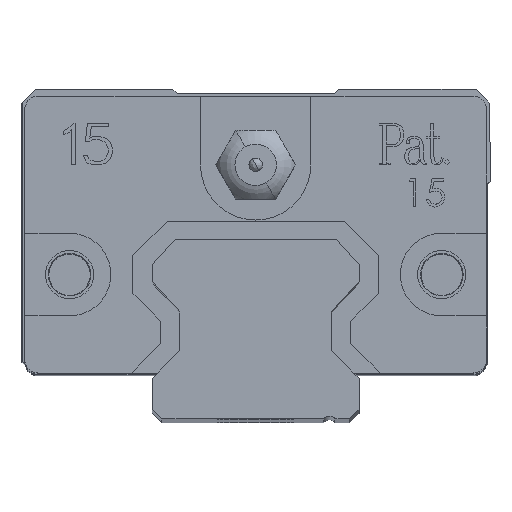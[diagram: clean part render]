
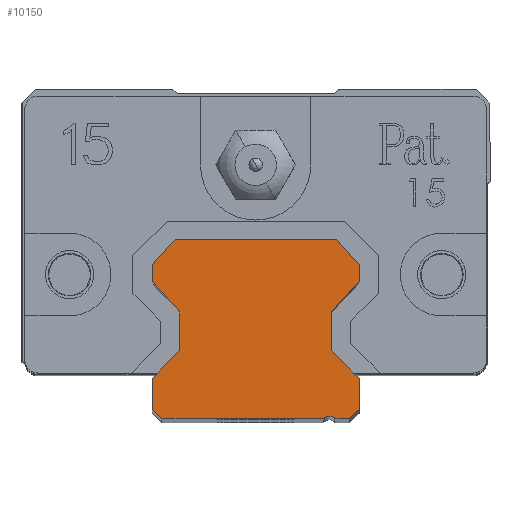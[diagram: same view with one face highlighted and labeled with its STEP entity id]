
A CAD part, top view. The second image highlights one B-rep face of the part: STEP entity #10150.
In plain terms, the highlighted planar face has unit normal (0, 0, 1).
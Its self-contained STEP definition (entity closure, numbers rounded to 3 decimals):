
#109 = DIRECTION ( 'NONE',  ( -0.67, -0.742, 0. ) ) ;
#121 = VERTEX_POINT ( 'NONE', #10497 ) ;
#242 = EDGE_CURVE ( 'NONE', #7053, #3446, #3421, .T. ) ;
#275 = DIRECTION ( 'NONE',  ( 0., -1., 0. ) ) ;
#368 = CARTESIAN_POINT ( 'NONE',  ( -5.5, -2.8, 80. ) ) ;
#427 = LINE ( 'NONE', #15049, #14549 ) ;
#525 = VECTOR ( 'NONE', #14811, 1000. ) ;
#643 = ORIENTED_EDGE ( 'NONE', *, *, #1134, .T. ) ;
#658 = ORIENTED_EDGE ( 'NONE', *, *, #7974, .T. ) ;
#1035 = VERTEX_POINT ( 'NONE', #14005 ) ;
#1068 = EDGE_CURVE ( 'NONE', #121, #13910, #1779, .T. ) ;
#1134 = EDGE_CURVE ( 'NONE', #13910, #14554, #1858, .T. ) ;
#1194 = ORIENTED_EDGE ( 'NONE', *, *, #1418, .T. ) ;
#1236 = CARTESIAN_POINT ( 'NONE',  ( 5.35, -10.85, 80. ) ) ;
#1257 = DIRECTION ( 'NONE',  ( 0., 1., 0. ) ) ;
#1418 = EDGE_CURVE ( 'NONE', #11864, #10074, #14987, .T. ) ;
#1494 = VECTOR ( 'NONE', #6719, 1000. ) ;
#1553 = ORIENTED_EDGE ( 'NONE', *, *, #5429, .T. ) ;
#1726 = EDGE_CURVE ( 'NONE', #7640, #121, #7304, .T. ) ;
#1779 = LINE ( 'NONE', #10383, #14615 ) ;
#1858 = LINE ( 'NONE', #13849, #12071 ) ;
#2053 = VERTEX_POINT ( 'NONE', #13202 ) ;
#2123 = EDGE_CURVE ( 'NONE', #3446, #3235, #2877, .T. ) ;
#2182 = ORIENTED_EDGE ( 'NONE', *, *, #13780, .T. ) ;
#2283 = CARTESIAN_POINT ( 'NONE',  ( 5.5, -5.6, 80. ) ) ;
#2499 = VERTEX_POINT ( 'NONE', #7344 ) ;
#2524 = VECTOR ( 'NONE', #14203, 1000. ) ;
#2562 = EDGE_CURVE ( 'NONE', #3235, #15721, #14769, .T. ) ;
#2877 = CIRCLE ( 'NONE', #6943, 0.5 ) ;
#2970 = ORIENTED_EDGE ( 'NONE', *, *, #242, .T. ) ;
#3102 = VECTOR ( 'NONE', #4507, 1000. ) ;
#3235 = VERTEX_POINT ( 'NONE', #14645 ) ;
#3401 = EDGE_CURVE ( 'NONE', #7544, #12817, #427, .T. ) ;
#3421 = LINE ( 'NONE', #5797, #7894 ) ;
#3446 = VERTEX_POINT ( 'NONE', #9513 ) ;
#3500 = EDGE_CURVE ( 'NONE', #15721, #2053, #4749, .T. ) ;
#3571 = EDGE_CURVE ( 'NONE', #2053, #11864, #12225, .T. ) ;
#3947 = VECTOR ( 'NONE', #11016, 1000. ) ;
#4507 = DIRECTION ( 'NONE',  ( 0.707, 0.707, 0. ) ) ;
#4594 = ORIENTED_EDGE ( 'NONE', *, *, #2562, .T. ) ;
#4749 = LINE ( 'NONE', #10701, #3102 ) ;
#4897 = EDGE_CURVE ( 'NONE', #1035, #7053, #6572, .T. ) ;
#5284 = CARTESIAN_POINT ( 'NONE',  ( 7.5, 0.621, 80. ) ) ;
#5418 = EDGE_CURVE ( 'NONE', #11360, #10384, #15782, .T. ) ;
#5429 = EDGE_CURVE ( 'NONE', #10074, #7640, #13381, .T. ) ;
#5797 = CARTESIAN_POINT ( 'NONE',  ( -6.8, -10.55, 80. ) ) ;
#5887 = VECTOR ( 'NONE', #14463, 1000. ) ;
#5912 = VERTEX_POINT ( 'NONE', #14617 ) ;
#6110 = DIRECTION ( 'NONE',  ( 0., 0., 1. ) ) ;
#6419 = DIRECTION ( 'NONE',  ( 1., 0., 0. ) ) ;
#6460 = CARTESIAN_POINT ( 'NONE',  ( 6.8, -10.55, 80. ) ) ;
#6541 = VECTOR ( 'NONE', #1257, 1000. ) ;
#6567 = DIRECTION ( 'NONE',  ( 0., 1., 0. ) ) ;
#6572 = LINE ( 'NONE', #7933, #7227 ) ;
#6719 = DIRECTION ( 'NONE',  ( -1., 0., 0. ) ) ;
#6943 = AXIS2_PLACEMENT_3D ( 'NONE', #14702, #14634, #6419 ) ;
#7053 = VERTEX_POINT ( 'NONE', #9582 ) ;
#7063 = CARTESIAN_POINT ( 'NONE',  ( 7.5, -7.6, 80. ) ) ;
#7216 = PLANE ( 'NONE',  #11421 ) ;
#7227 = VECTOR ( 'NONE', #12792, 1000. ) ;
#7304 = LINE ( 'NONE', #12179, #525 ) ;
#7344 = CARTESIAN_POINT ( 'NONE',  ( -7.5, -7.6, 80. ) ) ;
#7349 = EDGE_CURVE ( 'NONE', #10384, #7544, #13975, .T. ) ;
#7424 = CARTESIAN_POINT ( 'NONE',  ( 5.75, -10.55, 80. ) ) ;
#7544 = VERTEX_POINT ( 'NONE', #8685 ) ;
#7640 = VERTEX_POINT ( 'NONE', #14741 ) ;
#7894 = VECTOR ( 'NONE', #9545, 1000. ) ;
#7904 = VECTOR ( 'NONE', #11082, 1000. ) ;
#7933 = CARTESIAN_POINT ( 'NONE',  ( -7.5, -9.85, 80. ) ) ;
#7974 = EDGE_CURVE ( 'NONE', #12817, #5912, #12253, .T. ) ;
#7981 = CARTESIAN_POINT ( 'NONE',  ( -5.85, 2.45, 80. ) ) ;
#8448 = CARTESIAN_POINT ( 'NONE',  ( 5.5, -5.6, 80. ) ) ;
#8515 = CARTESIAN_POINT ( 'NONE',  ( -7.5, 0.621, 80. ) ) ;
#8632 = ORIENTED_EDGE ( 'NONE', *, *, #3500, .T. ) ;
#8656 = DIRECTION ( 'NONE',  ( 1., 0., 0. ) ) ;
#8685 = CARTESIAN_POINT ( 'NONE',  ( -7.5, -0.621, 80. ) ) ;
#8936 = CARTESIAN_POINT ( 'NONE',  ( 7.5, -7.6, 80. ) ) ;
#9074 = ORIENTED_EDGE ( 'NONE', *, *, #3571, .T. ) ;
#9155 = LINE ( 'NONE', #10176, #11401 ) ;
#9363 = CARTESIAN_POINT ( 'NONE',  ( -7.5, 0.621, 80. ) ) ;
#9513 = CARTESIAN_POINT ( 'NONE',  ( 4.95, -10.55, 80. ) ) ;
#9545 = DIRECTION ( 'NONE',  ( 1., 0., 0. ) ) ;
#9582 = CARTESIAN_POINT ( 'NONE',  ( -6.8, -10.55, 80. ) ) ;
#9749 = LINE ( 'NONE', #14626, #3947 ) ;
#9766 = CARTESIAN_POINT ( 'NONE',  ( -5.5, -2.8, 80. ) ) ;
#9918 = VECTOR ( 'NONE', #275, 1000. ) ;
#9923 = FACE_OUTER_BOUND ( 'NONE', #13458, .T. ) ;
#10074 = VERTEX_POINT ( 'NONE', #2283 ) ;
#10150 = ADVANCED_FACE ( 'NONE', ( #9923 ), #7216, .T. ) ;
#10176 = CARTESIAN_POINT ( 'NONE',  ( -7.5, -7.6, 80. ) ) ;
#10305 = DIRECTION ( 'NONE',  ( -0.67, 0.742, 0. ) ) ;
#10382 = ORIENTED_EDGE ( 'NONE', *, *, #14881, .T. ) ;
#10383 = CARTESIAN_POINT ( 'NONE',  ( 7.5, -0.621, 80. ) ) ;
#10384 = VERTEX_POINT ( 'NONE', #9363 ) ;
#10433 = CARTESIAN_POINT ( 'NONE',  ( 5.85, 2.45, 80. ) ) ;
#10497 = CARTESIAN_POINT ( 'NONE',  ( 7.5, -0.621, 80. ) ) ;
#10532 = ORIENTED_EDGE ( 'NONE', *, *, #2123, .T. ) ;
#10701 = CARTESIAN_POINT ( 'NONE',  ( 6.8, -10.55, 80. ) ) ;
#10855 = EDGE_CURVE ( 'NONE', #14554, #11360, #11740, .T. ) ;
#11016 = DIRECTION ( 'NONE',  ( -0.707, -0.707, 0. ) ) ;
#11032 = ORIENTED_EDGE ( 'NONE', *, *, #10855, .T. ) ;
#11082 = DIRECTION ( 'NONE',  ( 1., 0., 0. ) ) ;
#11360 = VERTEX_POINT ( 'NONE', #7981 ) ;
#11401 = VECTOR ( 'NONE', #14031, 1000. ) ;
#11421 = AXIS2_PLACEMENT_3D ( 'NONE', #1236, #6110, #8656 ) ;
#11533 = ORIENTED_EDGE ( 'NONE', *, *, #5418, .T. ) ;
#11590 = ORIENTED_EDGE ( 'NONE', *, *, #1726, .T. ) ;
#11740 = LINE ( 'NONE', #15348, #1494 ) ;
#11864 = VERTEX_POINT ( 'NONE', #7063 ) ;
#12070 = CARTESIAN_POINT ( 'NONE',  ( 7.5, -9.85, 80. ) ) ;
#12071 = VECTOR ( 'NONE', #10305, 1000. ) ;
#12179 = CARTESIAN_POINT ( 'NONE',  ( 5.5, -2.8, 80. ) ) ;
#12225 = LINE ( 'NONE', #12070, #5887 ) ;
#12253 = LINE ( 'NONE', #9766, #9918 ) ;
#12482 = DIRECTION ( 'NONE',  ( 0.676, -0.737, 0. ) ) ;
#12768 = CARTESIAN_POINT ( 'NONE',  ( -7.5, 0.621, 80. ) ) ;
#12792 = DIRECTION ( 'NONE',  ( 0.707, -0.707, 0. ) ) ;
#12817 = VERTEX_POINT ( 'NONE', #368 ) ;
#13054 = ORIENTED_EDGE ( 'NONE', *, *, #3401, .T. ) ;
#13162 = VECTOR ( 'NONE', #109, 1000. ) ;
#13202 = CARTESIAN_POINT ( 'NONE',  ( 7.5, -9.85, 80. ) ) ;
#13381 = LINE ( 'NONE', #8448, #6541 ) ;
#13458 = EDGE_LOOP ( 'NONE', ( #10382, #13547, #2970, #10532, #4594, #8632, #9074, #1194, #1553, #11590, #14316, #643, #11032, #11533, #13878, #13054, #658, #2182 ) ) ;
#13547 = ORIENTED_EDGE ( 'NONE', *, *, #4897, .T. ) ;
#13780 = EDGE_CURVE ( 'NONE', #5912, #2499, #9749, .T. ) ;
#13810 = DIRECTION ( 'NONE',  ( -0.707, 0.707, 0. ) ) ;
#13849 = CARTESIAN_POINT ( 'NONE',  ( 7.5, 0.621, 80. ) ) ;
#13878 = ORIENTED_EDGE ( 'NONE', *, *, #7349, .T. ) ;
#13910 = VERTEX_POINT ( 'NONE', #5284 ) ;
#13975 = LINE ( 'NONE', #12768, #2524 ) ;
#14005 = CARTESIAN_POINT ( 'NONE',  ( -7.5, -9.85, 80. ) ) ;
#14031 = DIRECTION ( 'NONE',  ( 0., -1., 0. ) ) ;
#14203 = DIRECTION ( 'NONE',  ( 0., -1., 0. ) ) ;
#14292 = VECTOR ( 'NONE', #13810, 1000. ) ;
#14316 = ORIENTED_EDGE ( 'NONE', *, *, #1068, .T. ) ;
#14463 = DIRECTION ( 'NONE',  ( 0., 1., 0. ) ) ;
#14549 = VECTOR ( 'NONE', #12482, 1000. ) ;
#14554 = VERTEX_POINT ( 'NONE', #10433 ) ;
#14615 = VECTOR ( 'NONE', #6567, 1000. ) ;
#14617 = CARTESIAN_POINT ( 'NONE',  ( -5.5, -5.6, 80. ) ) ;
#14626 = CARTESIAN_POINT ( 'NONE',  ( -5.5, -5.6, 80. ) ) ;
#14634 = DIRECTION ( 'NONE',  ( 0., 0., -1. ) ) ;
#14645 = CARTESIAN_POINT ( 'NONE',  ( 5.75, -10.55, 80. ) ) ;
#14702 = CARTESIAN_POINT ( 'NONE',  ( 5.35, -10.85, 80. ) ) ;
#14741 = CARTESIAN_POINT ( 'NONE',  ( 5.5, -2.8, 80. ) ) ;
#14769 = LINE ( 'NONE', #7424, #7904 ) ;
#14811 = DIRECTION ( 'NONE',  ( 0.676, 0.737, 0. ) ) ;
#14881 = EDGE_CURVE ( 'NONE', #2499, #1035, #9155, .T. ) ;
#14987 = LINE ( 'NONE', #8936, #14292 ) ;
#15049 = CARTESIAN_POINT ( 'NONE',  ( -7.5, -0.621, 80. ) ) ;
#15348 = CARTESIAN_POINT ( 'NONE',  ( 5.85, 2.45, 80. ) ) ;
#15721 = VERTEX_POINT ( 'NONE', #6460 ) ;
#15782 = LINE ( 'NONE', #8515, #13162 ) ;
